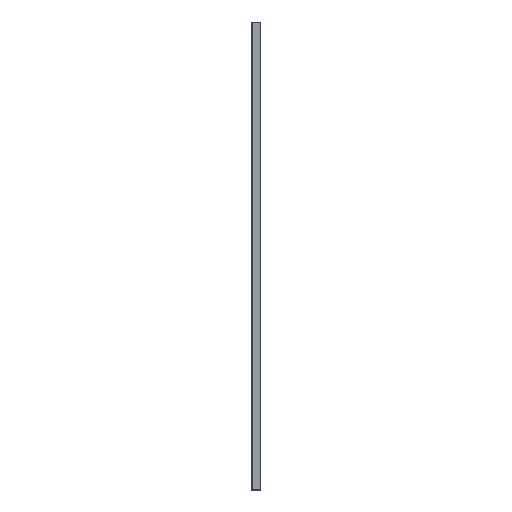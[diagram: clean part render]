
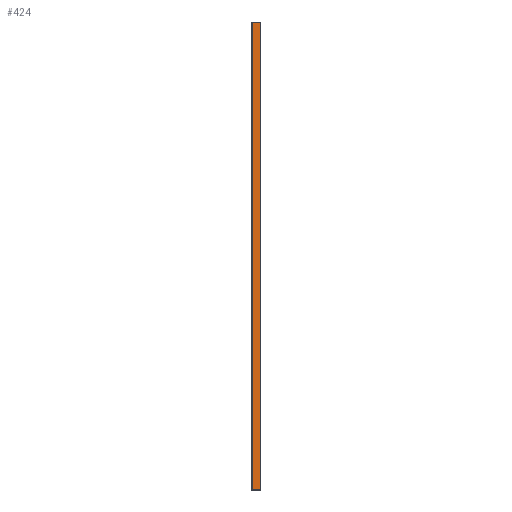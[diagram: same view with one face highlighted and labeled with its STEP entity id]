
A CAD part, left-side view. The second image highlights one B-rep face of the part: STEP entity #424.
In plain terms, the highlighted planar face has unit normal (-1, 0, 0).
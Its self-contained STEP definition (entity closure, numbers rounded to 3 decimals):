
#16 = EDGE_CURVE ( 'NONE', #82, #595, #1070, .T. ) ;
#57 = FACE_OUTER_BOUND ( 'NONE', #94, .T. ) ;
#82 = VERTEX_POINT ( 'NONE', #238 ) ;
#94 = EDGE_LOOP ( 'NONE', ( #967, #675, #166, #401 ) ) ;
#107 = CARTESIAN_POINT ( 'NONE',  ( -701.5, 0., -1050. ) ) ;
#113 = VECTOR ( 'NONE', #819, 1000. ) ;
#121 = EDGE_CURVE ( 'NONE', #235, #1032, #1092, .T. ) ;
#147 = LINE ( 'NONE', #751, #415 ) ;
#166 = ORIENTED_EDGE ( 'NONE', *, *, #121, .T. ) ;
#207 = CARTESIAN_POINT ( 'NONE',  ( -701.5, -20., -1050. ) ) ;
#235 = VERTEX_POINT ( 'NONE', #713 ) ;
#238 = CARTESIAN_POINT ( 'NONE',  ( -701.5, 0., -1050. ) ) ;
#360 = EDGE_CURVE ( 'NONE', #235, #82, #642, .T. ) ;
#396 = DIRECTION ( 'NONE',  ( -1., 0., 0. ) ) ;
#401 = ORIENTED_EDGE ( 'NONE', *, *, #638, .T. ) ;
#403 = PLANE ( 'NONE',  #848 ) ;
#415 = VECTOR ( 'NONE', #842, 1000. ) ;
#424 = ADVANCED_FACE ( 'NONE', ( #57 ), #403, .T. ) ;
#451 = VECTOR ( 'NONE', #851, 1000. ) ;
#472 = VECTOR ( 'NONE', #722, 1000. ) ;
#499 = CARTESIAN_POINT ( 'NONE',  ( -701.5, -20., -1050. ) ) ;
#595 = VERTEX_POINT ( 'NONE', #744 ) ;
#638 = EDGE_CURVE ( 'NONE', #1032, #595, #147, .T. ) ;
#640 = CARTESIAN_POINT ( 'NONE',  ( -701.5, -20., 50. ) ) ;
#642 = LINE ( 'NONE', #207, #113 ) ;
#675 = ORIENTED_EDGE ( 'NONE', *, *, #360, .F. ) ;
#713 = CARTESIAN_POINT ( 'NONE',  ( -701.5, -20., -1050. ) ) ;
#722 = DIRECTION ( 'NONE',  ( 0., 0., 1. ) ) ;
#744 = CARTESIAN_POINT ( 'NONE',  ( -701.5, 0., 50. ) ) ;
#745 = CARTESIAN_POINT ( 'NONE',  ( -701.5, -20., -1050. ) ) ;
#751 = CARTESIAN_POINT ( 'NONE',  ( -701.5, -20., 50. ) ) ;
#760 = DIRECTION ( 'NONE',  ( 0., 0., 1. ) ) ;
#819 = DIRECTION ( 'NONE',  ( 0., 1., 0. ) ) ;
#842 = DIRECTION ( 'NONE',  ( 0., 1., 0. ) ) ;
#848 = AXIS2_PLACEMENT_3D ( 'NONE', #745, #396, #760 ) ;
#851 = DIRECTION ( 'NONE',  ( 0., 0., 1. ) ) ;
#967 = ORIENTED_EDGE ( 'NONE', *, *, #16, .F. ) ;
#1032 = VERTEX_POINT ( 'NONE', #640 ) ;
#1070 = LINE ( 'NONE', #107, #472 ) ;
#1092 = LINE ( 'NONE', #499, #451 ) ;
